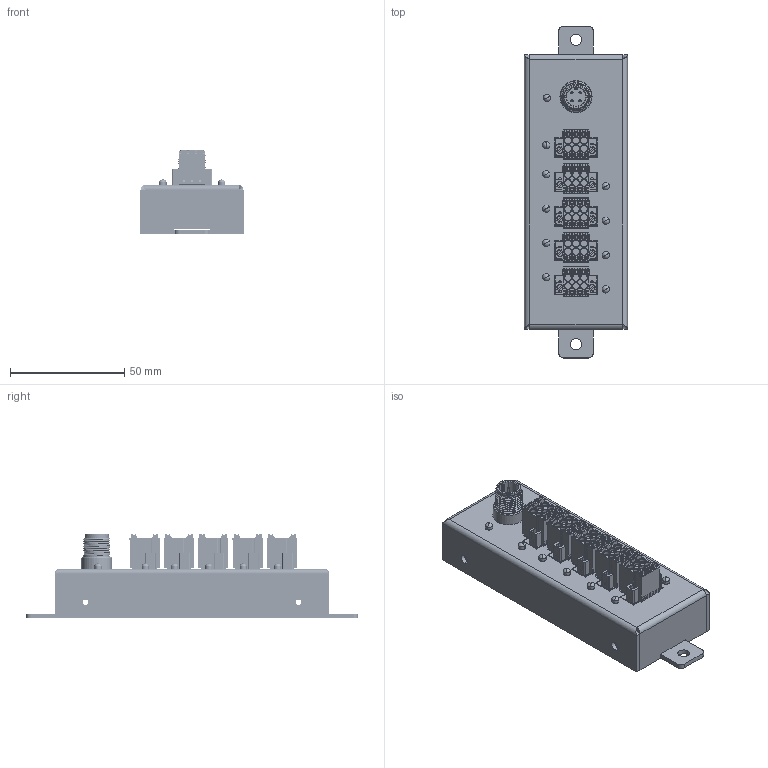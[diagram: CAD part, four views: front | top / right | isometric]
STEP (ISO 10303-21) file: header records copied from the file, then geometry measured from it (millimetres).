
FILE_DESCRIPTION (( 'STEP AP214' ), '1' );
FILE_NAME ('短款.STEP', '2024-08-28T09:55:26', ( '微软用户' ), ( '微软中国' ), 'SwSTEP 2.0', 'SolidWorks 2023', '' );
FILE_SCHEMA (( 'AUTOMOTIVE_DESIGN' ));
Length unit declared in the file: millimetre
Products named in the file (9): MC-DRT3.5H06P-K-0001; 上盖; M12A04C-MPBRCU-004(M12A面板式公头4芯-4，IO); KSD-JS000628-IOL20-B; 底壳; 000_137_103; PCB; 短款; MC-DPT3.5V06-I-BK-2000-直针
Assembly tree (25 placements, depth 3):
  短款
    KSD-JS000628-IOL20-B
      底壳
      上盖
      PCB
    MC-DPT3.5V06-I-BK-2000-直针  x5
    M12A04C-MPBRCU-004(M12A面板式公头4芯-4，IO)
    000_137_103  x10
    MC-DRT3.5H06P-K-0001  x5
Bounding box: 45 x 145 x 37 mm (x, y, z)
Volume: 58355.6 mm3; surface area: 65729.5 mm2
Topology: 24 solids, 46 shells, 6608 faces, 17711 edges, 11549 vertices
Faces by surface type: plane 3881, cylinder 1961, torus 311, cone 231, bspline 202, sphere 22
Entity records: 61661 total; most frequent: CARTESIAN_POINT 16073, ORIENTED_EDGE 9360, DIRECTION 8545, EDGE_CURVE 4680, VERTEX_POINT 3045, VECTOR 3031, LINE 3031, AXIS2_PLACEMENT_3D 2757
